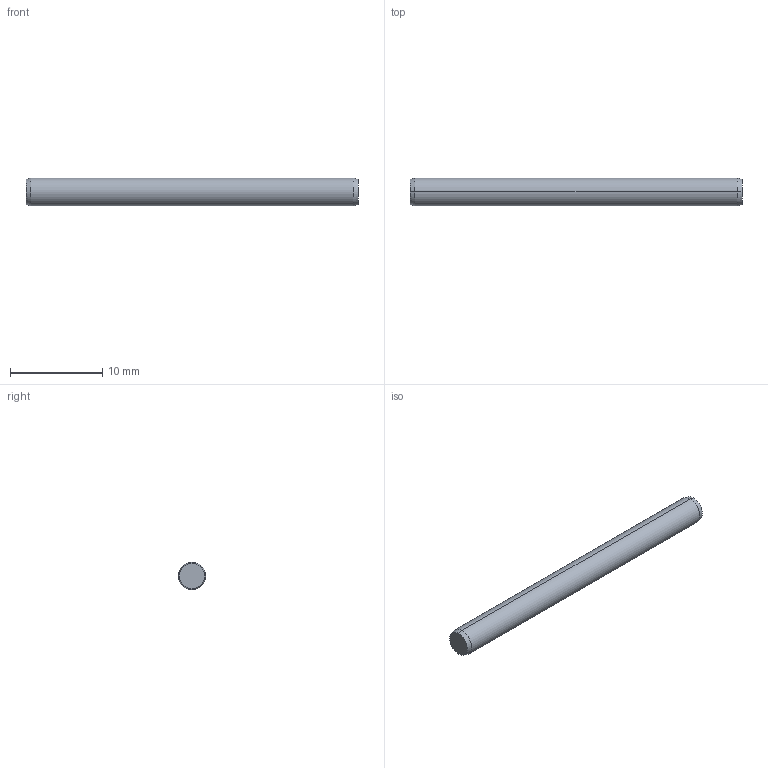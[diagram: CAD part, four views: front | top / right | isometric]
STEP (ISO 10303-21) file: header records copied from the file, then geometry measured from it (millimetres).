
FILE_DESCRIPTION (( 'STEP AP203' ), '1' );
FILE_NAME ('P1206.030-036.step', '2017-06-14T08:06:54', ( 'User' ), ( '' ), 'SwSTEP 2.0', 'SolidWorks 2009', '' );
FILE_SCHEMA (( 'CONFIG_CONTROL_DESIGN' ));
Length unit declared in the file: millimetre
Products named in the file (1): P1206.030-036
Bounding box: 36 x 3 x 3 mm (x, y, z)
Volume: 253.9 mm3; surface area: 350.9 mm2
Topology: 1 solids, 1 shells, 8 faces, 14 edges, 8 vertices
Faces by surface type: cone 4, cylinder 2, plane 2
Entity records: 271 total; most frequent: DIRECTION 40, CARTESIAN_POINT 31, ORIENTED_EDGE 28, AXIS2_PLACEMENT_3D 17, EDGE_CURVE 14, PERSON_AND_ORGANIZATION 8, CIRCLE 8, FACE_OUTER_BOUND 8
